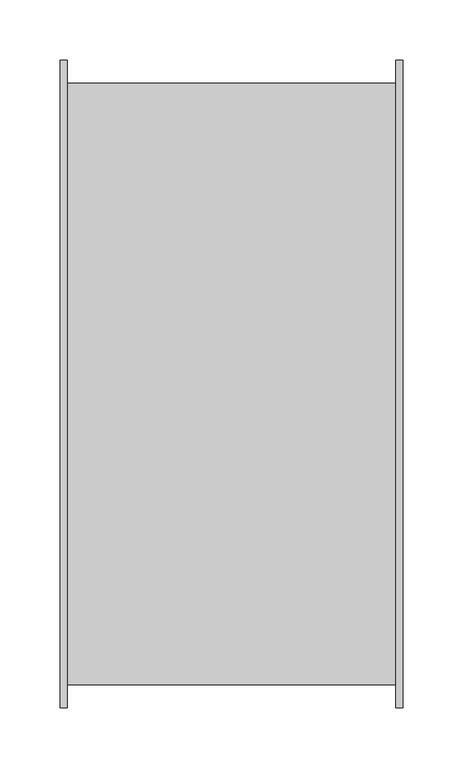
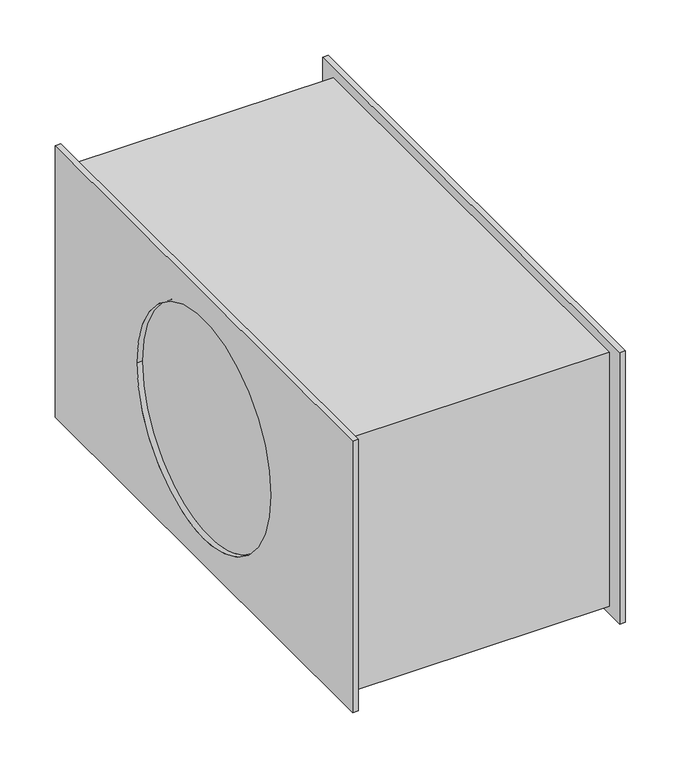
"""IFC4 building model written with IfcOpenShell, lengths in millimetres: unitary equipment geometry, VE-Wentylator-ParaForma-Harmann-JETTEC_REC_EC-Nawiewny : 050/25/2100EC."""

from ifc_helpers import new_model, si_unit, frame, origin, place, context, project, spatial, polyline, circle_curve, source, transform, mapped, element, save
from ifc_brep_helpers import plane_surface, revolved_surface, advanced_brep


def unitary_equipment_318f0239(model_context):
    return source(origin(), model_context, "Body", "AdvancedBrep", [
        advanced_brep(
        [(136.7, -269.0, -150.0), (136.7, -269.0, 150.0), (136.7, 269.0, 150.0), (136.7, 269.0, -150.0), (136.7, -250.0, 138.9), (136.7, -250.0, -141.7), (136.7, 250.0, -141.7), (136.7, 250.0, 138.9), (142.5, -269.0, -150.0), (142.5, 269.0, -150.0), (142.5, 269.0, 150.0), (142.5, -269.0, 150.0), (142.5, -121.0, 0.0), (142.5, 121.0, 0.0), (136.7, 121.0, 0.0), (136.7, -121.0, 0.0), (-136.7, -121.0, 0.0), (-136.7, 121.0, 0.0), (-136.7, -250.0, -141.7), (-136.7, -250.0, 138.9), (-136.7, 250.0, 138.9), (-136.7, 250.0, -141.7), (-142.5, -269.0, -150.0), (-142.5, -269.0, 150.0), (-142.5, 269.0, 150.0), (-142.5, 269.0, -150.0), (-142.5, 121.0, 0.0), (-142.5, -121.0, 0.0), (-136.7, -269.0, -150.0), (-136.7, 269.0, -150.0), (-136.7, 269.0, 150.0), (-136.7, -269.0, 150.0)],
        [
            (0, 1),
            (1, 2),
            (2, 3),
            (3, 0),
            (4, 5),
            (5, 6),
            (6, 7),
            (7, 4),
            (8, 9),
            (9, 10),
            (10, 11),
            (11, 8),
            (12, 13, circle_curve(frame((142.5, 0.0, 0.0), z_axis=(-1.0, 0.0, 0.0), x_axis=(0.0, 1.0, 0.0)), 121.0)),
            (13, 12, circle_curve(frame((142.5, 0.0, 0.0), z_axis=(-1.0, 0.0, 0.0), x_axis=(0.0, 1.0, 0.0)), 121.0)),
            (0, 8),
            (11, 1),
            (10, 2),
            (9, 3),
            (14, 13),
            (12, 15),
            (15, 14, circle_curve(frame((136.7, 0.0, 0.0), z_axis=(-1.0, 0.0, 0.0), x_axis=(0.0, 1.0, 0.0)), 121.0)),
            (14, 15, circle_curve(frame((136.7, 0.0, 0.0), z_axis=(-1.0, 0.0, 0.0), x_axis=(0.0, 1.0, 0.0)), 121.0)),
            (16, 17, circle_curve(frame((-136.7, 0.0, 0.0), z_axis=(-1.0, 0.0, 0.0), x_axis=(0.0, 1.0, 0.0)), 121.0)),
            (17, 16, circle_curve(frame((-136.7, 0.0, 0.0), z_axis=(-1.0, 0.0, 0.0), x_axis=(0.0, 1.0, 0.0)), 121.0)),
            (18, 5),
            (4, 19),
            (19, 18),
            (7, 20),
            (20, 19),
            (6, 21),
            (21, 20),
            (18, 21),
            (22, 23),
            (23, 24),
            (24, 25),
            (25, 22),
            (26, 27, circle_curve(frame((-142.5, 0.0, 0.0), z_axis=(1.0, 0.0, 0.0), x_axis=(0.0, 1.0, 0.0)), 121.0)),
            (27, 26, circle_curve(frame((-142.5, 0.0, 0.0), z_axis=(1.0, 0.0, 0.0), x_axis=(0.0, 1.0, 0.0)), 121.0)),
            (28, 29),
            (29, 30),
            (30, 31),
            (31, 28),
            (22, 28),
            (31, 23),
            (30, 24),
            (29, 25),
            (26, 17),
            (16, 27),
        ],
        [
            plane_surface(frame((136.7, 0.0, 0.0), z_axis=(-1.0, 0.0, 0.0), x_axis=(0.0, 0.0, 1.0))),
            plane_surface(frame((142.5, 0.0, 0.0), z_axis=(1.0, 0.0, 0.0), x_axis=(0.0, 0.0, 1.0))),
            plane_surface(frame((136.7, -269.0, -150.0), z_axis=(0.0, -1.0, 0.0), x_axis=(1.0, 0.0, 0.0))),
            plane_surface(frame((136.7, -269.0, 150.0), z_axis=(0.0, 0.0, 1.0), x_axis=(1.0, 0.0, 0.0))),
            plane_surface(frame((136.7, 269.0, 150.0), z_axis=(0.0, 1.0, 0.0), x_axis=(1.0, 0.0, 0.0))),
            plane_surface(frame((136.7, 269.0, -150.0), z_axis=(0.0, 0.0, -1.0), x_axis=(1.0, 0.0, 0.0))),
            revolved_surface(polyline([(136.7, 121.0, 0.0), (142.5, 121.0, 0.0)]), (136.7, 0.0, 0.0), (-1.0, 0.0, 0.0)),
            plane_surface(frame((-136.7, 0.0, 0.0), z_axis=(-1.0, 0.0, 0.0), x_axis=(0.0, 0.0, 1.0))),
            plane_surface(frame((136.7, 0.0, 0.0), z_axis=(1.0, 0.0, 0.0), x_axis=(0.0, 0.0, 1.0))),
            plane_surface(frame((-136.7, -250.0, -141.7), z_axis=(0.0, -1.0, 0.0), x_axis=(1.0, 0.0, 0.0))),
            plane_surface(frame((-136.7, -250.0, 138.9), z_axis=(0.0, 0.0, 1.0), x_axis=(1.0, 0.0, 0.0))),
            plane_surface(frame((-136.7, 250.0, 138.9), z_axis=(0.0, 1.0, 0.0), x_axis=(1.0, 0.0, 0.0))),
            plane_surface(frame((-136.7, 250.0, -141.7), z_axis=(0.0, 0.0, -1.0), x_axis=(1.0, 0.0, 0.0))),
            plane_surface(frame((-142.5, 0.0, 0.0), z_axis=(-1.0, 0.0, 0.0), x_axis=(0.0, 0.0, 1.0))),
            plane_surface(frame((-136.7, 0.0, 0.0), z_axis=(1.0, 0.0, 0.0), x_axis=(0.0, 0.0, 1.0))),
            plane_surface(frame((-142.5, -269.0, -150.0), z_axis=(0.0, -1.0, 0.0), x_axis=(1.0, 0.0, 0.0))),
            plane_surface(frame((-142.5, -269.0, 150.0), z_axis=(0.0, 0.0, 1.0), x_axis=(1.0, 0.0, 0.0))),
            plane_surface(frame((-142.5, 269.0, 150.0), z_axis=(0.0, 1.0, 0.0), x_axis=(1.0, 0.0, 0.0))),
            plane_surface(frame((-142.5, 269.0, -150.0), z_axis=(0.0, 0.0, -1.0), x_axis=(1.0, 0.0, 0.0))),
            revolved_surface(polyline([(-142.5, 121.0, 0.0), (-136.7, 121.0, 0.0)]), (-142.5, 0.0, 0.0), (-1.0, 0.0, 0.0)),
        ],
        [
            (0, [[1, 2, 3, 4], [5, 6, 7, 8]]),
            (1, [[9, 10, 11, 12], [13, 14]]),
            (2, [[-1, 15, -12, 16]]),
            (3, [[-2, -16, -11, 17]]),
            (4, [[-3, -17, -10, 18]]),
            (5, [[-4, -18, -9, -15]]),
            (6, [[19, -13, 20, 21]]),
            (6, [[-19, 22, -20, -14]]),
            (7, [[23, 24]]),
            (8, [[-21, -22]]),
            (9, [[25, -5, 26, 27]]),
            (10, [[-26, -8, 28, 29]]),
            (11, [[-28, -7, 30, 31]]),
            (12, [[-25, 32, -30, -6]]),
            (13, [[33, 34, 35, 36], [37, 38]]),
            (14, [[39, 40, 41, 42], [-27, -29, -31, -32]]),
            (15, [[-33, 43, -42, 44]]),
            (16, [[-34, -44, -41, 45]]),
            (17, [[-35, -45, -40, 46]]),
            (18, [[-36, -46, -39, -43]]),
            (19, [[47, -23, 48, -37]]),
            (19, [[-47, -38, -48, -24]]),
        ],
    ),
    ])


if __name__ == "__main__":
    model = new_model("IFC4")
    model_context = context("Model", 3, world=origin())
    ifc_project = project(units=[si_unit("LENGTHUNIT", "METRE", prefix="MILLI")], contexts=[model_context])
    site = spatial("IfcSite", under=ifc_project)
    building = spatial("IfcBuilding", under=site)
    placement = place(None, origin())
    unitary_equipment_shape = unitary_equipment_318f0239(model_context)
    element("IfcUnitaryEquipment", 1, ObjectType="VE-Wentylator-ParaForma-Harmann-JETTEC_REC_EC-Nawiewny : 050/25/2100EC", at=placement, inside=building, context=model_context, shape_type="MappedRepresentation", body=[
        mapped(unitary_equipment_shape, transform((0.0, 0.0, 0.0), x_axis=(1.0, 0.0, 0.0), y_axis=(0.0, 1.0, 0.0), z_axis=(0.0, 0.0, 1.0))),
    ])
    save(model, "model.ifc")
